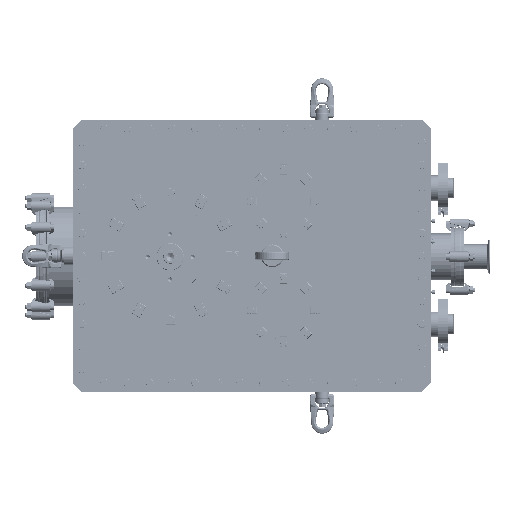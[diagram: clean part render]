
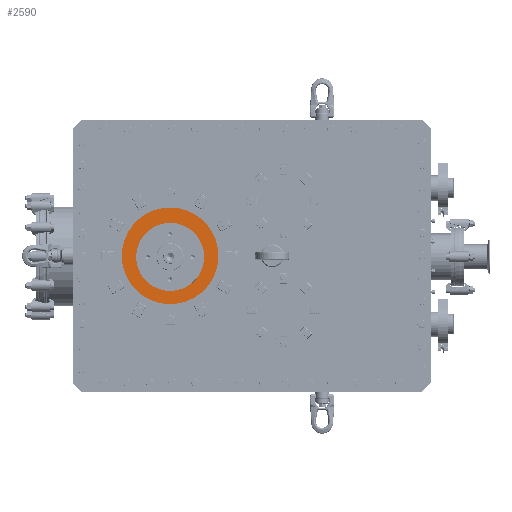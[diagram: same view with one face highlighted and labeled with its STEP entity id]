
A CAD part, top view. The second image highlights one B-rep face of the part: STEP entity #2590.
In plain terms, the highlighted planar face has unit normal (0, 0, 1) as drawn and (1, 0, 0) by its records, which use the part's own axes.
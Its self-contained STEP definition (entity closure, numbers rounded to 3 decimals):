
#2517=AXIS2_PLACEMENT_3D('Circle Axis2P3D',#2515,#2516,$) ;
#2536=AXIS2_PLACEMENT_3D('Circle Axis2P3D',#2534,#2535,$) ;
#2549=AXIS2_PLACEMENT_3D('Plane Axis2P3D',#2546,#2547,#2548) ;
#2512=CARTESIAN_POINT('Vertex',(20.,75.,0.)) ;
#2515=CARTESIAN_POINT('Axis2P3D Location',(20.,0.,0.)) ;
#2519=CARTESIAN_POINT('Vertex',(20.,-75.,0.)) ;
#2534=CARTESIAN_POINT('Axis2P3D Location',(20.,0.,0.)) ;
#2546=CARTESIAN_POINT('Axis2P3D Location',(20.,0.,0.)) ;
#2552=CARTESIAN_POINT('Line Origine',(20.,-155.,0.)) ;
#2556=CARTESIAN_POINT('Vertex',(20.,-155.,240.)) ;
#2558=CARTESIAN_POINT('Vertex',(20.,-155.,-240.)) ;
#2561=CARTESIAN_POINT('Line Origine',(20.,185.,-240.)) ;
#2565=CARTESIAN_POINT('Vertex',(20.,525.,-240.)) ;
#2568=CARTESIAN_POINT('Line Origine',(20.,525.,0.)) ;
#2572=CARTESIAN_POINT('Vertex',(20.,525.,240.)) ;
#2575=CARTESIAN_POINT('Line Origine',(20.,185.,240.)) ;
#2516=DIRECTION('Axis2P3D Direction',(1.,0.,0.)) ;
#2535=DIRECTION('Axis2P3D Direction',(1.,0.,0.)) ;
#2547=DIRECTION('Axis2P3D Direction',(1.,0.,0.)) ;
#2548=DIRECTION('Axis2P3D XDirection',(0.,1.,0.)) ;
#2553=DIRECTION('Vector Direction',(0.,0.,-1.)) ;
#2562=DIRECTION('Vector Direction',(0.,-1.,0.)) ;
#2569=DIRECTION('Vector Direction',(0.,0.,1.)) ;
#2576=DIRECTION('Vector Direction',(0.,1.,0.)) ;
#2554=VECTOR('Line Direction',#2553,1.) ;
#2563=VECTOR('Line Direction',#2562,1.) ;
#2570=VECTOR('Line Direction',#2569,1.) ;
#2577=VECTOR('Line Direction',#2576,1.) ;
#2581=ORIENTED_EDGE('',*,*,#2560,.T.) ;
#2582=ORIENTED_EDGE('',*,*,#2567,.T.) ;
#2583=ORIENTED_EDGE('',*,*,#2574,.T.) ;
#2584=ORIENTED_EDGE('',*,*,#2579,.T.) ;
#2587=ORIENTED_EDGE('',*,*,#2521,.F.) ;
#2588=ORIENTED_EDGE('',*,*,#2538,.F.) ;
#2589=FACE_BOUND('',#2586,.T.) ;
#2590=ADVANCED_FACE('Corps principal',(#2585,#2589),#2550,.T.) ;
#2518=CIRCLE('generated circle',#2517,75.) ;
#2537=CIRCLE('generated circle',#2536,75.) ;
#2521=EDGE_CURVE('',#2513,#2520,#2518,.T.) ;
#2538=EDGE_CURVE('',#2520,#2513,#2537,.T.) ;
#2560=EDGE_CURVE('',#2557,#2559,#2555,.T.) ;
#2567=EDGE_CURVE('',#2559,#2566,#2564,.F.) ;
#2574=EDGE_CURVE('',#2566,#2573,#2571,.T.) ;
#2579=EDGE_CURVE('',#2573,#2557,#2578,.F.) ;
#2580=EDGE_LOOP('',(#2581,#2582,#2583,#2584)) ;
#2586=EDGE_LOOP('',(#2587,#2588)) ;
#2585=FACE_OUTER_BOUND('',#2580,.T.) ;
#2555=LINE('Line',#2552,#2554) ;
#2564=LINE('Line',#2561,#2563) ;
#2571=LINE('Line',#2568,#2570) ;
#2578=LINE('Line',#2575,#2577) ;
#2550=PLANE('',#2549) ;
#2513=VERTEX_POINT('',#2512) ;
#2520=VERTEX_POINT('',#2519) ;
#2557=VERTEX_POINT('',#2556) ;
#2559=VERTEX_POINT('',#2558) ;
#2566=VERTEX_POINT('',#2565) ;
#2573=VERTEX_POINT('',#2572) ;
